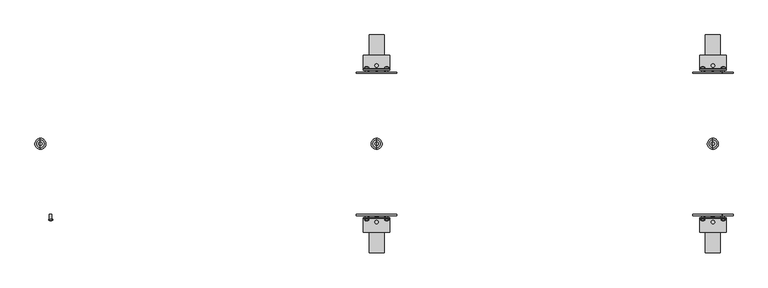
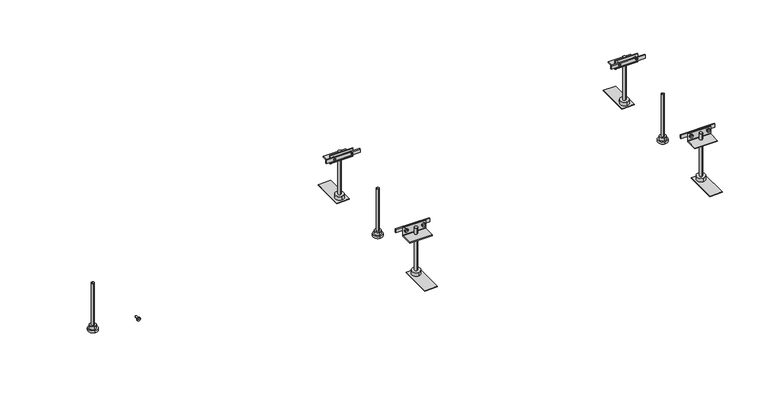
"""IFC4 building model written with IfcOpenShell, lengths in millimetres: proxy geometry."""

from ifc_helpers import new_model, si_unit, point, frame, frame_2d, origin, place, context, project, spatial, polyline, circle_curve, ellipse_curve, trimmed, segment, composite_curve, outline, extrude, source, transform, mapped, element, save
from ifc_brep_helpers import plane_surface, cylinder_surface, revolved_surface, advanced_brep


def electrical_fixtures_a5200488(model_context):
    return source(origin(), model_context, "Body", "SolidModel", [
        advanced_brep(
        [(1600.0, 13.0, -129.7), (1600.0, -13.0, -129.7), (1600.0, 0.0, -129.7), (1600.0, 13.0, -123.7), (1600.0, -13.0, -123.7), (1600.0, 9.0, -123.7), (1600.0, -9.0, -123.7), (1600.0, 9.0, -114.7), (1600.0, -9.0, -114.7), (1600.0, 3.954744, -114.7), (1600.0, -3.954744, -114.7), (1600.0, 3.954744, 10.3), (1600.0, -3.954744, 10.3), (1600.0, 0.0, 10.3)],
        [
            (0, 1, circle_curve(frame((1600.0, 0.0, -129.7), z_axis=(0.0, 0.0, -1.0), x_axis=(0.0, -1.0, 0.0)), 13.0)),
            (1, 2),
            (2, 0),
            (1, 0, circle_curve(frame((1600.0, 0.0, -129.7), z_axis=(0.0, 0.0, -1.0), x_axis=(0.0, -1.0, 0.0)), 13.0)),
            (3, 4, circle_curve(frame((1600.0, 0.0, -123.7), z_axis=(0.0, 0.0, -1.0), x_axis=(0.0, -1.0, 0.0)), 13.0)),
            (4, 1),
            (0, 3),
            (4, 3, circle_curve(frame((1600.0, 0.0, -123.7), z_axis=(0.0, 0.0, -1.0), x_axis=(0.0, -1.0, 0.0)), 13.0)),
            (5, 6, circle_curve(frame((1600.0, 0.0, -123.7), z_axis=(0.0, 0.0, -1.0), x_axis=(0.0, -1.0, 0.0)), 9.0)),
            (6, 4),
            (3, 5),
            (6, 5, circle_curve(frame((1600.0, 0.0, -123.7), z_axis=(0.0, 0.0, -1.0), x_axis=(0.0, -1.0, 0.0)), 9.0)),
            (7, 8, circle_curve(frame((1600.0, 0.0, -114.7), z_axis=(0.0, 0.0, -1.0), x_axis=(0.0, -1.0, 0.0)), 9.0)),
            (8, 6),
            (5, 7),
            (8, 7, circle_curve(frame((1600.0, 0.0, -114.7), z_axis=(0.0, 0.0, -1.0), x_axis=(0.0, -1.0, 0.0)), 9.0)),
            (9, 10, circle_curve(frame((1600.0, 0.0, -114.7), z_axis=(0.0, 0.0, -1.0), x_axis=(0.0, -1.0, 0.0)), 3.954744)),
            (10, 8),
            (7, 9),
            (10, 9, circle_curve(frame((1600.0, 0.0, -114.7), z_axis=(0.0, 0.0, -1.0), x_axis=(0.0, -1.0, 0.0)), 3.954744)),
            (11, 12, circle_curve(frame((1600.0, 0.0, 10.3), z_axis=(0.0, 0.0, -1.0), x_axis=(0.0, -1.0, 0.0)), 3.954744)),
            (12, 10),
            (9, 11),
            (12, 11, circle_curve(frame((1600.0, 0.0, 10.3), z_axis=(0.0, 0.0, -1.0), x_axis=(0.0, -1.0, 0.0)), 3.954744)),
            (13, 12),
            (11, 13),
        ],
        [
            plane_surface(frame((1600.0, 0.0, -129.7), z_axis=(0.0, 0.0, -1.0), x_axis=(0.0, -1.0, 0.0))),
            cylinder_surface(frame((1600.0, 0.0, 7.8), z_axis=(0.0, 0.0, 1.0), x_axis=(0.0, -1.0, 0.0)), 13.0),
            plane_surface(frame((1600.0, 0.0, -123.7), z_axis=(0.0, 0.0, 1.0), x_axis=(0.0, -1.0, 0.0))),
            cylinder_surface(frame((1600.0, 0.0, 7.8), z_axis=(0.0, 0.0, 1.0), x_axis=(0.0, -1.0, 0.0)), 9.0),
            plane_surface(frame((1600.0, 0.0, -114.7), z_axis=(0.0, 0.0, 1.0), x_axis=(0.0, -1.0, 0.0))),
            cylinder_surface(frame((1600.0, 0.0, 7.8), z_axis=(0.0, 0.0, 1.0), x_axis=(0.0, -1.0, 0.0)), 3.954744),
            plane_surface(frame((1600.0, 0.0, 10.3), z_axis=(0.0, 0.0, 1.0), x_axis=(0.0, -1.0, 0.0))),
        ],
        [
            (0, [[1, 2, 3]]),
            (0, [[4, -3, -2]]),
            (1, [[5, 6, -1, 7]]),
            (1, [[8, -7, -4, -6]]),
            (2, [[9, 10, -5, 11]]),
            (2, [[12, -11, -8, -10]]),
            (3, [[13, 14, -9, 15]]),
            (3, [[16, -15, -12, -14]]),
            (4, [[17, 18, -13, 19]]),
            (4, [[20, -19, -16, -18]]),
            (5, [[21, 22, -17, 23]]),
            (5, [[24, -23, -20, -22]]),
            (6, [[25, -21, 26]]),
            (6, [[-26, -24, -25]]),
        ],
    ),
        advanced_brep(
        [(1629.0575247, -181.6418922, 3.3), (1619.4769168, -181.6418922, 3.3), (1619.4769168, -179.7, 3.3), (1629.0575247, -179.7, 3.3), (1621.7042517, -179.7, 3.3), (1626.8301898, -179.7, 3.3), (1621.7042517, -167.7, 3.3), (1626.8301898, -167.7, 3.3), (1624.2672208, -167.7, 3.3), (1624.2672208, -183.3479209, 3.3)],
        [
            (0, 1, circle_curve(frame((1624.2672208, -181.6418922, 3.3), z_axis=(0.0, 1.0, 0.0), x_axis=(-1.0, 0.0, 0.0)), 4.790304)),
            (1, 2),
            (2, 3, circle_curve(frame((1624.2672208, -179.7, 3.3), z_axis=(0.0, -1.0, 0.0), x_axis=(-1.0, 0.0, 0.0)), 4.790304)),
            (3, 0),
            (1, 0, circle_curve(frame((1624.2672208, -181.6418922, 3.3), z_axis=(0.0, 1.0, 0.0), x_axis=(-1.0, 0.0, 0.0)), 4.790304)),
            (3, 2, circle_curve(frame((1624.2672208, -179.7, 3.3), z_axis=(0.0, -1.0, 0.0), x_axis=(-1.0, 0.0, 0.0)), 4.790304)),
            (2, 4),
            (4, 5, circle_curve(frame((1624.2672208, -179.7, 3.3), z_axis=(0.0, -1.0, 0.0), x_axis=(-1.0, 0.0, 0.0)), 2.562969)),
            (5, 3),
            (5, 4, circle_curve(frame((1624.2672208, -179.7, 3.3), z_axis=(0.0, -1.0, 0.0), x_axis=(-1.0, 0.0, 0.0)), 2.562969)),
            (4, 6),
            (6, 7, circle_curve(frame((1624.2672208, -167.7, 3.3), z_axis=(0.0, -1.0, 0.0), x_axis=(-1.0, 0.0, 0.0)), 2.562969)),
            (7, 5),
            (7, 6, circle_curve(frame((1624.2672208, -167.7, 3.3), z_axis=(0.0, -1.0, 0.0), x_axis=(-1.0, 0.0, 0.0)), 2.562969)),
            (6, 8),
            (8, 7),
            (9, 1, circle_curve(frame((1624.2353142, -175.8592246, 3.3), z_axis=(0.0, 0.0, -1.0), x_axis=(-1.0, 0.0, 0.0)), 7.4887643)),
            (0, 9, circle_curve(frame((1624.2991274, -175.8592246, 3.3), z_axis=(0.0, 0.0, -1.0), x_axis=(1.0, 0.0, 0.0)), 7.4887643)),
        ],
        [
            cylinder_surface(frame((1624.2672208, -179.2950786, 3.3), z_axis=(0.0, -1.0, 0.0), x_axis=(-1.0, 0.0, 0.0)), 4.790304),
            plane_surface(frame((1624.2672208, -179.7, 3.3), z_axis=(0.0, 1.0, 0.0), x_axis=(-1.0, 0.0, 0.0))),
            cylinder_surface(frame((1624.2672208, -179.2950786, 3.3), z_axis=(0.0, -1.0, 0.0), x_axis=(-1.0, 0.0, 0.0)), 2.562969),
            plane_surface(frame((1624.2672208, -167.7, 3.3), z_axis=(0.0, 1.0, 0.0), x_axis=(-1.0, 0.0, 0.0))),
            revolved_surface(trimmed(ellipse_curve(frame((1624.2353142, -175.8592246, 3.3), z_axis=(0.0, 0.0, 1.0), x_axis=(-1.0, 0.0, 0.0)), 7.4887643, 7.4887643), [point((1619.4769168, -181.6418922, 3.3))], [point((1624.2672208, -183.3479209, 3.3))], True, "CARTESIAN"), (1624.2672208, -179.2950786, 3.3), (0.0, -1.0, 0.0)),
        ],
        [
            (0, [[1, 2, 3, 4]]),
            (0, [[5, -4, 6, -2]]),
            (1, [[-3, 7, 8, 9]]),
            (1, [[-6, -9, 10, -7]]),
            (2, [[-8, 11, 12, 13]]),
            (2, [[-10, -13, 14, -11]]),
            (3, [[-12, 15, 16]]),
            (3, [[-14, -16, -15]]),
            (4, [[17, -1, 18]]),
            (4, [[-18, -5, -17]]),
        ],
    ),
        advanced_brep(
        [(1580.790304, -181.6418922, 3.3), (1571.209696, -181.6418922, 3.3), (1571.209696, -179.7, 3.3), (1580.790304, -179.7, 3.3), (1573.437031, -179.7, 3.3), (1578.562969, -179.7, 3.3), (1573.437031, -167.7, 3.3), (1578.562969, -167.7, 3.3), (1576.0, -167.7, 3.3), (1576.0, -183.3479209, 3.3)],
        [
            (0, 1, circle_curve(frame((1576.0, -181.6418922, 3.3), z_axis=(0.0, 1.0, 0.0), x_axis=(-1.0, 0.0, 0.0)), 4.790304)),
            (1, 2),
            (2, 3, circle_curve(frame((1576.0, -179.7, 3.3), z_axis=(0.0, -1.0, 0.0), x_axis=(-1.0, 0.0, 0.0)), 4.790304)),
            (3, 0),
            (1, 0, circle_curve(frame((1576.0, -181.6418922, 3.3), z_axis=(0.0, 1.0, 0.0), x_axis=(-1.0, 0.0, 0.0)), 4.790304)),
            (3, 2, circle_curve(frame((1576.0, -179.7, 3.3), z_axis=(0.0, -1.0, 0.0), x_axis=(-1.0, 0.0, 0.0)), 4.790304)),
            (2, 4),
            (4, 5, circle_curve(frame((1576.0, -179.7, 3.3), z_axis=(0.0, -1.0, 0.0), x_axis=(-1.0, 0.0, 0.0)), 2.562969)),
            (5, 3),
            (5, 4, circle_curve(frame((1576.0, -179.7, 3.3), z_axis=(0.0, -1.0, 0.0), x_axis=(-1.0, 0.0, 0.0)), 2.562969)),
            (4, 6),
            (6, 7, circle_curve(frame((1576.0, -167.7, 3.3), z_axis=(0.0, -1.0, 0.0), x_axis=(-1.0, 0.0, 0.0)), 2.562969)),
            (7, 5),
            (7, 6, circle_curve(frame((1576.0, -167.7, 3.3), z_axis=(0.0, -1.0, 0.0), x_axis=(-1.0, 0.0, 0.0)), 2.562969)),
            (6, 8),
            (8, 7),
            (9, 1, circle_curve(frame((1575.9680934, -175.8592246, 3.3), z_axis=(0.0, 0.0, -1.0), x_axis=(-1.0, 0.0, 0.0)), 7.4887643)),
            (0, 9, circle_curve(frame((1576.0319066, -175.8592246, 3.3), z_axis=(0.0, 0.0, -1.0), x_axis=(1.0, 0.0, 0.0)), 7.4887643)),
        ],
        [
            cylinder_surface(frame((1576.0, -179.2950786, 3.3), z_axis=(0.0, -1.0, 0.0), x_axis=(-1.0, 0.0, 0.0)), 4.790304),
            plane_surface(frame((1576.0, -179.7, 3.3), z_axis=(0.0, 1.0, 0.0), x_axis=(-1.0, 0.0, 0.0))),
            cylinder_surface(frame((1576.0, -179.2950786, 3.3), z_axis=(0.0, -1.0, 0.0), x_axis=(-1.0, 0.0, 0.0)), 2.562969),
            plane_surface(frame((1576.0, -167.7, 3.3), z_axis=(0.0, 1.0, 0.0), x_axis=(-1.0, 0.0, 0.0))),
            revolved_surface(trimmed(ellipse_curve(frame((1575.9680934, -175.8592246, 3.3), z_axis=(0.0, 0.0, 1.0), x_axis=(-1.0, 0.0, 0.0)), 7.4887643, 7.4887643), [point((1571.209696, -181.6418922, 3.3))], [point((1576.0, -183.3479209, 3.3))], True, "CARTESIAN"), (1576.0, -179.2950786, 3.3), (0.0, -1.0, 0.0)),
        ],
        [
            (0, [[1, 2, 3, 4]]),
            (0, [[5, -4, 6, -2]]),
            (1, [[-3, 7, 8, 9]]),
            (1, [[-6, -9, 10, -7]]),
            (2, [[-8, 11, 12, 13]]),
            (2, [[-10, -13, 14, -11]]),
            (3, [[-12, 15, 16]]),
            (3, [[-14, -16, -15]]),
            (4, [[17, -1, 18]]),
            (4, [[-18, -5, -17]]),
        ],
    ),
        advanced_brep(
        [(1629.0575247, 179.7, 3.3), (1619.4769168, 179.7, 3.3), (1619.4769168, 181.6418922, 3.3), (1629.0575247, 181.6418922, 3.3), (1626.8301898, 179.7, 3.3), (1621.7042517, 179.7, 3.3), (1626.8301898, 167.7, 3.3), (1621.7042517, 167.7, 3.3), (1624.2672208, 167.7, 3.3), (1624.2672208, 183.3479209, 3.3)],
        [
            (0, 1, circle_curve(frame((1624.2672208, 179.7, 3.3), z_axis=(0.0, 1.0, 0.0), x_axis=(-1.0, 0.0, 0.0)), 4.790304)),
            (1, 2),
            (2, 3, circle_curve(frame((1624.2672208, 181.6418922, 3.3), z_axis=(0.0, -1.0, 0.0), x_axis=(-1.0, 0.0, 0.0)), 4.790304)),
            (3, 0),
            (1, 0, circle_curve(frame((1624.2672208, 179.7, 3.3), z_axis=(0.0, 1.0, 0.0), x_axis=(-1.0, 0.0, 0.0)), 4.790304)),
            (3, 2, circle_curve(frame((1624.2672208, 181.6418922, 3.3), z_axis=(0.0, -1.0, 0.0), x_axis=(-1.0, 0.0, 0.0)), 4.790304)),
            (4, 5, circle_curve(frame((1624.2672208, 179.7, 3.3), z_axis=(0.0, 1.0, 0.0), x_axis=(-1.0, 0.0, 0.0)), 2.562969)),
            (5, 1),
            (0, 4),
            (5, 4, circle_curve(frame((1624.2672208, 179.7, 3.3), z_axis=(0.0, 1.0, 0.0), x_axis=(-1.0, 0.0, 0.0)), 2.562969)),
            (6, 7, circle_curve(frame((1624.2672208, 167.7, 3.3), z_axis=(0.0, 1.0, 0.0), x_axis=(-1.0, 0.0, 0.0)), 2.562969)),
            (7, 5),
            (4, 6),
            (7, 6, circle_curve(frame((1624.2672208, 167.7, 3.3), z_axis=(0.0, 1.0, 0.0), x_axis=(-1.0, 0.0, 0.0)), 2.562969)),
            (8, 7),
            (6, 8),
            (2, 9, circle_curve(frame((1624.2353142, 175.8592246, 3.3), z_axis=(0.0, 0.0, -1.0), x_axis=(-1.0, 0.0, 0.0)), 7.4887643)),
            (9, 3, circle_curve(frame((1624.2991274, 175.8592246, 3.3), z_axis=(0.0, 0.0, -1.0), x_axis=(1.0, 0.0, 0.0)), 7.4887643)),
        ],
        [
            cylinder_surface(frame((1624.2672208, 179.2950786, 3.3), z_axis=(0.0, -1.0, 0.0), x_axis=(-1.0, 0.0, 0.0)), 4.790304),
            plane_surface(frame((1624.2672208, 179.7, 3.3), z_axis=(0.0, -1.0, 0.0), x_axis=(-1.0, 0.0, 0.0))),
            cylinder_surface(frame((1624.2672208, 179.2950786, 3.3), z_axis=(0.0, -1.0, 0.0), x_axis=(-1.0, 0.0, 0.0)), 2.562969),
            plane_surface(frame((1624.2672208, 167.7, 3.3), z_axis=(0.0, -1.0, 0.0), x_axis=(-1.0, 0.0, 0.0))),
            revolved_surface(trimmed(ellipse_curve(frame((1624.2353142, 175.8592246, 3.3), z_axis=(0.0, 0.0, 1.0), x_axis=(-1.0, 0.0, 0.0)), 7.4887643, 7.4887643), [point((1624.2672208, 183.3479209, 3.3))], [point((1619.4769168, 181.6418922, 3.3))], True, "CARTESIAN"), (1624.2672208, 179.2950786, 3.3), (0.0, -1.0, 0.0)),
        ],
        [
            (0, [[1, 2, 3, 4]]),
            (0, [[5, -4, 6, -2]]),
            (1, [[7, 8, -1, 9]]),
            (1, [[10, -9, -5, -8]]),
            (2, [[11, 12, -7, 13]]),
            (2, [[14, -13, -10, -12]]),
            (3, [[15, -11, 16]]),
            (3, [[-16, -14, -15]]),
            (4, [[-3, 17, 18]]),
            (4, [[-6, -18, -17]]),
        ],
    ),
        advanced_brep(
        [(1580.790304, 179.7, 3.3), (1571.209696, 179.7, 3.3), (1571.209696, 181.6418922, 3.3), (1580.790304, 181.6418922, 3.3), (1578.562969, 179.7, 3.3), (1573.437031, 179.7, 3.3), (1578.562969, 167.7, 3.3), (1573.437031, 167.7, 3.3), (1576.0, 167.7, 3.3), (1576.0, 183.3479209, 3.3)],
        [
            (0, 1, circle_curve(frame((1576.0, 179.7, 3.3), z_axis=(0.0, 1.0, 0.0), x_axis=(-1.0, 0.0, 0.0)), 4.790304)),
            (1, 2),
            (2, 3, circle_curve(frame((1576.0, 181.6418922, 3.3), z_axis=(0.0, -1.0, 0.0), x_axis=(-1.0, 0.0, 0.0)), 4.790304)),
            (3, 0),
            (1, 0, circle_curve(frame((1576.0, 179.7, 3.3), z_axis=(0.0, 1.0, 0.0), x_axis=(-1.0, 0.0, 0.0)), 4.790304)),
            (3, 2, circle_curve(frame((1576.0, 181.6418922, 3.3), z_axis=(0.0, -1.0, 0.0), x_axis=(-1.0, 0.0, 0.0)), 4.790304)),
            (4, 5, circle_curve(frame((1576.0, 179.7, 3.3), z_axis=(0.0, 1.0, 0.0), x_axis=(-1.0, 0.0, 0.0)), 2.562969)),
            (5, 1),
            (0, 4),
            (5, 4, circle_curve(frame((1576.0, 179.7, 3.3), z_axis=(0.0, 1.0, 0.0), x_axis=(-1.0, 0.0, 0.0)), 2.562969)),
            (6, 7, circle_curve(frame((1576.0, 167.7, 3.3), z_axis=(0.0, 1.0, 0.0), x_axis=(-1.0, 0.0, 0.0)), 2.562969)),
            (7, 5),
            (4, 6),
            (7, 6, circle_curve(frame((1576.0, 167.7, 3.3), z_axis=(0.0, 1.0, 0.0), x_axis=(-1.0, 0.0, 0.0)), 2.562969)),
            (8, 7),
            (6, 8),
            (2, 9, circle_curve(frame((1575.9680934, 175.8592246, 3.3), z_axis=(0.0, 0.0, -1.0), x_axis=(-1.0, 0.0, 0.0)), 7.4887643)),
            (9, 3, circle_curve(frame((1576.0319066, 175.8592246, 3.3), z_axis=(0.0, 0.0, -1.0), x_axis=(1.0, 0.0, 0.0)), 7.4887643)),
        ],
        [
            cylinder_surface(frame((1576.0, 179.2950786, 3.3), z_axis=(0.0, -1.0, 0.0), x_axis=(-1.0, 0.0, 0.0)), 4.790304),
            plane_surface(frame((1576.0, 179.7, 3.3), z_axis=(0.0, -1.0, 0.0), x_axis=(-1.0, 0.0, 0.0))),
            cylinder_surface(frame((1576.0, 179.2950786, 3.3), z_axis=(0.0, -1.0, 0.0), x_axis=(-1.0, 0.0, 0.0)), 2.562969),
            plane_surface(frame((1576.0, 167.7, 3.3), z_axis=(0.0, -1.0, 0.0), x_axis=(-1.0, 0.0, 0.0))),
            revolved_surface(trimmed(ellipse_curve(frame((1575.9680934, 175.8592246, 3.3), z_axis=(0.0, 0.0, 1.0), x_axis=(-1.0, 0.0, 0.0)), 7.4887643, 7.4887643), [point((1576.0, 183.3479209, 3.3))], [point((1571.209696, 181.6418922, 3.3))], True, "CARTESIAN"), (1576.0, 179.2950786, 3.3), (0.0, -1.0, 0.0)),
        ],
        [
            (0, [[1, 2, 3, 4]]),
            (0, [[5, -4, 6, -2]]),
            (1, [[7, 8, -1, 9]]),
            (1, [[10, -9, -5, -8]]),
            (2, [[11, 12, -7, 13]]),
            (2, [[14, -13, -10, -12]]),
            (3, [[15, -11, 16]]),
            (3, [[-16, -14, -15]]),
            (4, [[-3, 17, 18]]),
            (4, [[-6, -18, -17]]),
        ],
    ),
        extrude(outline(polyline([(1552.0, 167.7), (1552.0, 170.7), (1648.0, 170.7), (1648.0, 167.7), (1552.0, 167.7)])), frame((0.0, 0.0, -1.7), z_axis=(0.0, 0.0, 1.0), x_axis=(1.0, 0.0, 0.0)), (0.0, 0.0, 1.0), 10.0),
        extrude(outline(polyline([(1552.0, -170.7), (1552.0, -167.7), (1648.0, -167.7), (1648.0, -170.7), (1552.0, -170.7)])), frame((0.0, 0.0, -1.7), z_axis=(0.0, 0.0, 1.0), x_axis=(1.0, 0.0, 0.0)), (0.0, 0.0, 1.0), 10.0),
        extrude(outline(composite_curve([segment(polyline([(175.6, 11.7), (177.6, 11.7), (177.6, -10.3088822)]), True, "CONTINUOUS"), segment(trimmed(circle_curve(frame_2d((178.5911178, -10.3088822)), 0.9911178), [point((177.6, -10.3088822))], [point((178.5911178, -11.3))], True, "CARTESIAN"), True, "CONTINUOUS"), segment(polyline([(178.5911178, -11.3), (210.6, -11.3), (210.6, -13.3), (178.6002521, -13.3)]), True, "CONTINUOUS"), segment(trimmed(circle_curve(frame_2d((178.6002521, -10.2997479)), 3.0002521), [point((178.6002521, -13.3))], [point((175.6, -10.2997479))], False, "CARTESIAN"), True, "CONTINUOUS"), segment(polyline([(175.6, -10.2997479), (175.6, 11.7)]), True, "CONTINUOUS")], self_intersect=False)), frame((1568.3, 0.0, 0.0), z_axis=(1.0, 0.0, 0.0), x_axis=(0.0, 1.0, 0.0)), (0.0, 0.0, 1.0), 63.4),
        extrude(outline(composite_curve([segment(polyline([(-175.6, 11.7), (-175.6, -10.2997479)]), True, "CONTINUOUS"), segment(trimmed(circle_curve(frame_2d((-178.6002521, -10.2997479)), 3.0002521), [point((-175.6, -10.2997479))], [point((-178.6002521, -13.3))], False, "CARTESIAN"), True, "CONTINUOUS"), segment(polyline([(-178.6002521, -13.3), (-210.6, -13.3), (-210.6, -11.3), (-178.5911178, -11.3)]), True, "CONTINUOUS"), segment(trimmed(circle_curve(frame_2d((-178.5911178, -10.3088822)), 0.9911178), [point((-178.5911178, -11.3))], [point((-177.6, -10.3088822))], True, "CARTESIAN"), True, "CONTINUOUS"), segment(polyline([(-177.6, -10.3088822), (-177.6, 11.7), (-175.6, 11.7)]), True, "CONTINUOUS")], self_intersect=False)), frame((1568.3, 0.0, 0.0), z_axis=(1.0, 0.0, 0.0), x_axis=(0.0, 1.0, 0.0)), (0.0, 0.0, 1.0), 63.4),
        extrude(outline(composite_curve([segment(trimmed(circle_curve(frame_2d((1600.0, 186.1712378)), 3.9923162), [point((1600.0, 190.163554))], [point((1600.0, 182.1789216))], False, "CARTESIAN"), True, "CONTINUOUS"), segment(trimmed(circle_curve(frame_2d((1600.0, 186.1712378)), 3.9923162), [point((1600.0, 182.1789216))], [point((1600.0, 190.163554))], False, "CARTESIAN"), True, "CONTINUOUS")], self_intersect=False)), frame((0.0, 0.0, -119.0), z_axis=(0.0, 0.0, 1.0), x_axis=(1.0, 0.0, 0.0)), (0.0, 0.0, 1.0), 126.8),
        extrude(outline(composite_curve([segment(trimmed(circle_curve(frame_2d((1600.0, -186.0787011)), 3.991847), [point((1600.0, -182.0868541))], [point((1600.0, -190.0705482))], False, "CARTESIAN"), True, "CONTINUOUS"), segment(trimmed(circle_curve(frame_2d((1600.0, -186.0787011)), 3.991847), [point((1600.0, -190.0705482))], [point((1600.0, -182.0868541))], False, "CARTESIAN"), True, "CONTINUOUS")], self_intersect=False)), frame((0.0, 0.0, -119.0), z_axis=(0.0, 0.0, 1.0), x_axis=(1.0, 0.0, 0.0)), (0.0, 0.0, 1.0), 126.8),
        extrude(outline(composite_curve([segment(trimmed(circle_curve(frame_2d((1600.0, 186.1652527)), 12.0), [point((1600.0, 198.1652527))], [point((1600.0, 174.1652527))], False, "CARTESIAN"), True, "CONTINUOUS"), segment(trimmed(circle_curve(frame_2d((1600.0, 186.1652527)), 12.0), [point((1600.0, 174.1652527))], [point((1600.0, 198.1652527))], False, "CARTESIAN"), True, "CONTINUOUS")], self_intersect=False)), frame((0.0, 0.0, -129.7), z_axis=(0.0, 0.0, 1.0), x_axis=(1.0, 0.0, 0.0)), (0.0, 0.0, 1.0), 10.7),
        extrude(outline(composite_curve([segment(trimmed(circle_curve(frame_2d((1600.0, -186.112037)), 12.0), [point((1600.0, -174.112037))], [point((1600.0, -198.112037))], False, "CARTESIAN"), True, "CONTINUOUS"), segment(trimmed(circle_curve(frame_2d((1600.0, -186.112037)), 12.0), [point((1600.0, -198.112037))], [point((1600.0, -174.112037))], False, "CARTESIAN"), True, "CONTINUOUS")], self_intersect=False)), frame((0.0, 0.0, -129.7), z_axis=(0.0, 0.0, 1.0), x_axis=(1.0, 0.0, 0.0)), (0.0, 0.0, 1.0), 10.7),
        extrude(outline(polyline([(1618.0, 169.1), (1582.0, 169.1), (1582.0, 259.1), (1618.0, 259.1), (1618.0, 169.1)])), frame((0.0, 0.0, -131.2), z_axis=(0.0, 0.0, 1.0), x_axis=(1.0, 0.0, 0.0)), (0.0, 0.0, 1.0), 1.5),
        extrude(outline(polyline([(1618.0, -259.1), (1582.0, -259.1), (1582.0, -169.1), (1618.0, -169.1), (1618.0, -259.1)])), frame((0.0, 0.0, -131.2), z_axis=(0.0, 0.0, 1.0), x_axis=(1.0, 0.0, 0.0)), (0.0, 0.0, 1.0), 1.5),
        advanced_brep(
        [(800.0, 13.0, -129.7), (800.0, -13.0, -129.7), (800.0, 0.0, -129.7), (800.0, 13.0, -123.7), (800.0, -13.0, -123.7), (800.0, 9.0, -123.7), (800.0, -9.0, -123.7), (800.0, 9.0, -114.7), (800.0, -9.0, -114.7), (800.0, 3.954744, -114.7), (800.0, -3.954744, -114.7), (800.0, 3.954744, 10.3), (800.0, -3.954744, 10.3), (800.0, 0.0, 10.3)],
        [
            (0, 1, circle_curve(frame((800.0, 0.0, -129.7), z_axis=(0.0, 0.0, -1.0), x_axis=(0.0, -1.0, 0.0)), 13.0)),
            (1, 2),
            (2, 0),
            (1, 0, circle_curve(frame((800.0, 0.0, -129.7), z_axis=(0.0, 0.0, -1.0), x_axis=(0.0, -1.0, 0.0)), 13.0)),
            (3, 4, circle_curve(frame((800.0, 0.0, -123.7), z_axis=(0.0, 0.0, -1.0), x_axis=(0.0, -1.0, 0.0)), 13.0)),
            (4, 1),
            (0, 3),
            (4, 3, circle_curve(frame((800.0, 0.0, -123.7), z_axis=(0.0, 0.0, -1.0), x_axis=(0.0, -1.0, 0.0)), 13.0)),
            (5, 6, circle_curve(frame((800.0, 0.0, -123.7), z_axis=(0.0, 0.0, -1.0), x_axis=(0.0, -1.0, 0.0)), 9.0)),
            (6, 4),
            (3, 5),
            (6, 5, circle_curve(frame((800.0, 0.0, -123.7), z_axis=(0.0, 0.0, -1.0), x_axis=(0.0, -1.0, 0.0)), 9.0)),
            (7, 8, circle_curve(frame((800.0, 0.0, -114.7), z_axis=(0.0, 0.0, -1.0), x_axis=(0.0, -1.0, 0.0)), 9.0)),
            (8, 6),
            (5, 7),
            (8, 7, circle_curve(frame((800.0, 0.0, -114.7), z_axis=(0.0, 0.0, -1.0), x_axis=(0.0, -1.0, 0.0)), 9.0)),
            (9, 10, circle_curve(frame((800.0, 0.0, -114.7), z_axis=(0.0, 0.0, -1.0), x_axis=(0.0, -1.0, 0.0)), 3.954744)),
            (10, 8),
            (7, 9),
            (10, 9, circle_curve(frame((800.0, 0.0, -114.7), z_axis=(0.0, 0.0, -1.0), x_axis=(0.0, -1.0, 0.0)), 3.954744)),
            (11, 12, circle_curve(frame((800.0, 0.0, 10.3), z_axis=(0.0, 0.0, -1.0), x_axis=(0.0, -1.0, 0.0)), 3.954744)),
            (12, 10),
            (9, 11),
            (12, 11, circle_curve(frame((800.0, 0.0, 10.3), z_axis=(0.0, 0.0, -1.0), x_axis=(0.0, -1.0, 0.0)), 3.954744)),
            (13, 12),
            (11, 13),
        ],
        [
            plane_surface(frame((800.0, 0.0, -129.7), z_axis=(0.0, 0.0, -1.0), x_axis=(0.0, -1.0, 0.0))),
            cylinder_surface(frame((800.0, 0.0, 7.8), z_axis=(0.0, 0.0, 1.0), x_axis=(0.0, -1.0, 0.0)), 13.0),
            plane_surface(frame((800.0, 0.0, -123.7), z_axis=(0.0, 0.0, 1.0), x_axis=(0.0, -1.0, 0.0))),
            cylinder_surface(frame((800.0, 0.0, 7.8), z_axis=(0.0, 0.0, 1.0), x_axis=(0.0, -1.0, 0.0)), 9.0),
            plane_surface(frame((800.0, 0.0, -114.7), z_axis=(0.0, 0.0, 1.0), x_axis=(0.0, -1.0, 0.0))),
            cylinder_surface(frame((800.0, 0.0, 7.8), z_axis=(0.0, 0.0, 1.0), x_axis=(0.0, -1.0, 0.0)), 3.954744),
            plane_surface(frame((800.0, 0.0, 10.3), z_axis=(0.0, 0.0, 1.0), x_axis=(0.0, -1.0, 0.0))),
        ],
        [
            (0, [[1, 2, 3]]),
            (0, [[4, -3, -2]]),
            (1, [[5, 6, -1, 7]]),
            (1, [[8, -7, -4, -6]]),
            (2, [[9, 10, -5, 11]]),
            (2, [[12, -11, -8, -10]]),
            (3, [[13, 14, -9, 15]]),
            (3, [[16, -15, -12, -14]]),
            (4, [[17, 18, -13, 19]]),
            (4, [[20, -19, -16, -18]]),
            (5, [[21, 22, -17, 23]]),
            (5, [[24, -23, -20, -22]]),
            (6, [[25, -21, 26]]),
            (6, [[-26, -24, -25]]),
        ],
    ),
        advanced_brep(
        [(829.0575247, -181.6418922, 3.3), (819.4769168, -181.6418922, 3.3), (819.4769168, -179.7, 3.3), (829.0575247, -179.7, 3.3), (821.7042517, -179.7, 3.3), (826.8301898, -179.7, 3.3), (821.7042517, -167.7, 3.3), (826.8301898, -167.7, 3.3), (824.2672208, -167.7, 3.3), (824.2672208, -183.3479209, 3.3)],
        [
            (0, 1, circle_curve(frame((824.2672208, -181.6418922, 3.3), z_axis=(0.0, 1.0, 0.0), x_axis=(-1.0, 0.0, 0.0)), 4.790304)),
            (1, 2),
            (2, 3, circle_curve(frame((824.2672208, -179.7, 3.3), z_axis=(0.0, -1.0, 0.0), x_axis=(-1.0, 0.0, 0.0)), 4.790304)),
            (3, 0),
            (1, 0, circle_curve(frame((824.2672208, -181.6418922, 3.3), z_axis=(0.0, 1.0, 0.0), x_axis=(-1.0, 0.0, 0.0)), 4.790304)),
            (3, 2, circle_curve(frame((824.2672208, -179.7, 3.3), z_axis=(0.0, -1.0, 0.0), x_axis=(-1.0, 0.0, 0.0)), 4.790304)),
            (2, 4),
            (4, 5, circle_curve(frame((824.2672208, -179.7, 3.3), z_axis=(0.0, -1.0, 0.0), x_axis=(-1.0, 0.0, 0.0)), 2.562969)),
            (5, 3),
            (5, 4, circle_curve(frame((824.2672208, -179.7, 3.3), z_axis=(0.0, -1.0, 0.0), x_axis=(-1.0, 0.0, 0.0)), 2.562969)),
            (4, 6),
            (6, 7, circle_curve(frame((824.2672208, -167.7, 3.3), z_axis=(0.0, -1.0, 0.0), x_axis=(-1.0, 0.0, 0.0)), 2.562969)),
            (7, 5),
            (7, 6, circle_curve(frame((824.2672208, -167.7, 3.3), z_axis=(0.0, -1.0, 0.0), x_axis=(-1.0, 0.0, 0.0)), 2.562969)),
            (6, 8),
            (8, 7),
            (9, 1, circle_curve(frame((824.2353142, -175.8592246, 3.3), z_axis=(0.0, 0.0, -1.0), x_axis=(-1.0, 0.0, 0.0)), 7.4887643)),
            (0, 9, circle_curve(frame((824.2991274, -175.8592246, 3.3), z_axis=(0.0, 0.0, -1.0), x_axis=(1.0, 0.0, 0.0)), 7.4887643)),
        ],
        [
            cylinder_surface(frame((824.2672208, -179.2950786, 3.3), z_axis=(0.0, -1.0, 0.0), x_axis=(-1.0, 0.0, 0.0)), 4.790304),
            plane_surface(frame((824.2672208, -179.7, 3.3), z_axis=(0.0, 1.0, 0.0), x_axis=(-1.0, 0.0, 0.0))),
            cylinder_surface(frame((824.2672208, -179.2950786, 3.3), z_axis=(0.0, -1.0, 0.0), x_axis=(-1.0, 0.0, 0.0)), 2.562969),
            plane_surface(frame((824.2672208, -167.7, 3.3), z_axis=(0.0, 1.0, 0.0), x_axis=(-1.0, 0.0, 0.0))),
            revolved_surface(trimmed(ellipse_curve(frame((824.2353142, -175.8592246, 3.3), z_axis=(0.0, 0.0, 1.0), x_axis=(-1.0, 0.0, 0.0)), 7.4887643, 7.4887643), [point((819.4769168, -181.6418922, 3.3))], [point((824.2672208, -183.3479209, 3.3))], True, "CARTESIAN"), (824.2672208, -179.2950786, 3.3), (0.0, -1.0, 0.0)),
        ],
        [
            (0, [[1, 2, 3, 4]]),
            (0, [[5, -4, 6, -2]]),
            (1, [[-3, 7, 8, 9]]),
            (1, [[-6, -9, 10, -7]]),
            (2, [[-8, 11, 12, 13]]),
            (2, [[-10, -13, 14, -11]]),
            (3, [[-12, 15, 16]]),
            (3, [[-14, -16, -15]]),
            (4, [[17, -1, 18]]),
            (4, [[-18, -5, -17]]),
        ],
    ),
        advanced_brep(
        [(780.790304, -181.6418922, 3.3), (771.209696, -181.6418922, 3.3), (771.209696, -179.7, 3.3), (780.790304, -179.7, 3.3), (773.437031, -179.7, 3.3), (778.562969, -179.7, 3.3), (773.437031, -167.7, 3.3), (778.562969, -167.7, 3.3), (776.0, -167.7, 3.3), (776.0, -183.3479209, 3.3)],
        [
            (0, 1, circle_curve(frame((776.0, -181.6418922, 3.3), z_axis=(0.0, 1.0, 0.0), x_axis=(-1.0, 0.0, 0.0)), 4.790304)),
            (1, 2),
            (2, 3, circle_curve(frame((776.0, -179.7, 3.3), z_axis=(0.0, -1.0, 0.0), x_axis=(-1.0, 0.0, 0.0)), 4.790304)),
            (3, 0),
            (1, 0, circle_curve(frame((776.0, -181.6418922, 3.3), z_axis=(0.0, 1.0, 0.0), x_axis=(-1.0, 0.0, 0.0)), 4.790304)),
            (3, 2, circle_curve(frame((776.0, -179.7, 3.3), z_axis=(0.0, -1.0, 0.0), x_axis=(-1.0, 0.0, 0.0)), 4.790304)),
            (2, 4),
            (4, 5, circle_curve(frame((776.0, -179.7, 3.3), z_axis=(0.0, -1.0, 0.0), x_axis=(-1.0, 0.0, 0.0)), 2.562969)),
            (5, 3),
            (5, 4, circle_curve(frame((776.0, -179.7, 3.3), z_axis=(0.0, -1.0, 0.0), x_axis=(-1.0, 0.0, 0.0)), 2.562969)),
            (4, 6),
            (6, 7, circle_curve(frame((776.0, -167.7, 3.3), z_axis=(0.0, -1.0, 0.0), x_axis=(-1.0, 0.0, 0.0)), 2.562969)),
            (7, 5),
            (7, 6, circle_curve(frame((776.0, -167.7, 3.3), z_axis=(0.0, -1.0, 0.0), x_axis=(-1.0, 0.0, 0.0)), 2.562969)),
            (6, 8),
            (8, 7),
            (9, 1, circle_curve(frame((775.9680934, -175.8592246, 3.3), z_axis=(0.0, 0.0, -1.0), x_axis=(-1.0, 0.0, 0.0)), 7.4887643)),
            (0, 9, circle_curve(frame((776.0319066, -175.8592246, 3.3), z_axis=(0.0, 0.0, -1.0), x_axis=(1.0, 0.0, 0.0)), 7.4887643)),
        ],
        [
            cylinder_surface(frame((776.0, -179.2950786, 3.3), z_axis=(0.0, -1.0, 0.0), x_axis=(-1.0, 0.0, 0.0)), 4.790304),
            plane_surface(frame((776.0, -179.7, 3.3), z_axis=(0.0, 1.0, 0.0), x_axis=(-1.0, 0.0, 0.0))),
            cylinder_surface(frame((776.0, -179.2950786, 3.3), z_axis=(0.0, -1.0, 0.0), x_axis=(-1.0, 0.0, 0.0)), 2.562969),
            plane_surface(frame((776.0, -167.7, 3.3), z_axis=(0.0, 1.0, 0.0), x_axis=(-1.0, 0.0, 0.0))),
            revolved_surface(trimmed(ellipse_curve(frame((775.9680934, -175.8592246, 3.3), z_axis=(0.0, 0.0, 1.0), x_axis=(-1.0, 0.0, 0.0)), 7.4887643, 7.4887643), [point((771.209696, -181.6418922, 3.3))], [point((776.0, -183.3479209, 3.3))], True, "CARTESIAN"), (776.0, -179.2950786, 3.3), (0.0, -1.0, 0.0)),
        ],
        [
            (0, [[1, 2, 3, 4]]),
            (0, [[5, -4, 6, -2]]),
            (1, [[-3, 7, 8, 9]]),
            (1, [[-6, -9, 10, -7]]),
            (2, [[-8, 11, 12, 13]]),
            (2, [[-10, -13, 14, -11]]),
            (3, [[-12, 15, 16]]),
            (3, [[-14, -16, -15]]),
            (4, [[17, -1, 18]]),
            (4, [[-18, -5, -17]]),
        ],
    ),
        advanced_brep(
        [(829.0575247, 179.7, 3.3), (819.4769168, 179.7, 3.3), (819.4769168, 181.6418922, 3.3), (829.0575247, 181.6418922, 3.3), (826.8301898, 179.7, 3.3), (821.7042517, 179.7, 3.3), (826.8301898, 167.7, 3.3), (821.7042517, 167.7, 3.3), (824.2672208, 167.7, 3.3), (824.2672208, 183.3479209, 3.3)],
        [
            (0, 1, circle_curve(frame((824.2672208, 179.7, 3.3), z_axis=(0.0, 1.0, 0.0), x_axis=(-1.0, 0.0, 0.0)), 4.790304)),
            (1, 2),
            (2, 3, circle_curve(frame((824.2672208, 181.6418922, 3.3), z_axis=(0.0, -1.0, 0.0), x_axis=(-1.0, 0.0, 0.0)), 4.790304)),
            (3, 0),
            (1, 0, circle_curve(frame((824.2672208, 179.7, 3.3), z_axis=(0.0, 1.0, 0.0), x_axis=(-1.0, 0.0, 0.0)), 4.790304)),
            (3, 2, circle_curve(frame((824.2672208, 181.6418922, 3.3), z_axis=(0.0, -1.0, 0.0), x_axis=(-1.0, 0.0, 0.0)), 4.790304)),
            (4, 5, circle_curve(frame((824.2672208, 179.7, 3.3), z_axis=(0.0, 1.0, 0.0), x_axis=(-1.0, 0.0, 0.0)), 2.562969)),
            (5, 1),
            (0, 4),
            (5, 4, circle_curve(frame((824.2672208, 179.7, 3.3), z_axis=(0.0, 1.0, 0.0), x_axis=(-1.0, 0.0, 0.0)), 2.562969)),
            (6, 7, circle_curve(frame((824.2672208, 167.7, 3.3), z_axis=(0.0, 1.0, 0.0), x_axis=(-1.0, 0.0, 0.0)), 2.562969)),
            (7, 5),
            (4, 6),
            (7, 6, circle_curve(frame((824.2672208, 167.7, 3.3), z_axis=(0.0, 1.0, 0.0), x_axis=(-1.0, 0.0, 0.0)), 2.562969)),
            (8, 7),
            (6, 8),
            (2, 9, circle_curve(frame((824.2353142, 175.8592246, 3.3), z_axis=(0.0, 0.0, -1.0), x_axis=(-1.0, 0.0, 0.0)), 7.4887643)),
            (9, 3, circle_curve(frame((824.2991274, 175.8592246, 3.3), z_axis=(0.0, 0.0, -1.0), x_axis=(1.0, 0.0, 0.0)), 7.4887643)),
        ],
        [
            cylinder_surface(frame((824.2672208, 179.2950786, 3.3), z_axis=(0.0, -1.0, 0.0), x_axis=(-1.0, 0.0, 0.0)), 4.790304),
            plane_surface(frame((824.2672208, 179.7, 3.3), z_axis=(0.0, -1.0, 0.0), x_axis=(-1.0, 0.0, 0.0))),
            cylinder_surface(frame((824.2672208, 179.2950786, 3.3), z_axis=(0.0, -1.0, 0.0), x_axis=(-1.0, 0.0, 0.0)), 2.562969),
            plane_surface(frame((824.2672208, 167.7, 3.3), z_axis=(0.0, -1.0, 0.0), x_axis=(-1.0, 0.0, 0.0))),
            revolved_surface(trimmed(ellipse_curve(frame((824.2353142, 175.8592246, 3.3), z_axis=(0.0, 0.0, 1.0), x_axis=(-1.0, 0.0, 0.0)), 7.4887643, 7.4887643), [point((824.2672208, 183.3479209, 3.3))], [point((819.4769168, 181.6418922, 3.3))], True, "CARTESIAN"), (824.2672208, 179.2950786, 3.3), (0.0, -1.0, 0.0)),
        ],
        [
            (0, [[1, 2, 3, 4]]),
            (0, [[5, -4, 6, -2]]),
            (1, [[7, 8, -1, 9]]),
            (1, [[10, -9, -5, -8]]),
            (2, [[11, 12, -7, 13]]),
            (2, [[14, -13, -10, -12]]),
            (3, [[15, -11, 16]]),
            (3, [[-16, -14, -15]]),
            (4, [[-3, 17, 18]]),
            (4, [[-6, -18, -17]]),
        ],
    ),
        advanced_brep(
        [(780.790304, 179.7, 3.3), (771.209696, 179.7, 3.3), (771.209696, 181.6418922, 3.3), (780.790304, 181.6418922, 3.3), (778.562969, 179.7, 3.3), (773.437031, 179.7, 3.3), (778.562969, 167.7, 3.3), (773.437031, 167.7, 3.3), (776.0, 167.7, 3.3), (776.0, 183.3479209, 3.3)],
        [
            (0, 1, circle_curve(frame((776.0, 179.7, 3.3), z_axis=(0.0, 1.0, 0.0), x_axis=(-1.0, 0.0, 0.0)), 4.790304)),
            (1, 2),
            (2, 3, circle_curve(frame((776.0, 181.6418922, 3.3), z_axis=(0.0, -1.0, 0.0), x_axis=(-1.0, 0.0, 0.0)), 4.790304)),
            (3, 0),
            (1, 0, circle_curve(frame((776.0, 179.7, 3.3), z_axis=(0.0, 1.0, 0.0), x_axis=(-1.0, 0.0, 0.0)), 4.790304)),
            (3, 2, circle_curve(frame((776.0, 181.6418922, 3.3), z_axis=(0.0, -1.0, 0.0), x_axis=(-1.0, 0.0, 0.0)), 4.790304)),
            (4, 5, circle_curve(frame((776.0, 179.7, 3.3), z_axis=(0.0, 1.0, 0.0), x_axis=(-1.0, 0.0, 0.0)), 2.562969)),
            (5, 1),
            (0, 4),
            (5, 4, circle_curve(frame((776.0, 179.7, 3.3), z_axis=(0.0, 1.0, 0.0), x_axis=(-1.0, 0.0, 0.0)), 2.562969)),
            (6, 7, circle_curve(frame((776.0, 167.7, 3.3), z_axis=(0.0, 1.0, 0.0), x_axis=(-1.0, 0.0, 0.0)), 2.562969)),
            (7, 5),
            (4, 6),
            (7, 6, circle_curve(frame((776.0, 167.7, 3.3), z_axis=(0.0, 1.0, 0.0), x_axis=(-1.0, 0.0, 0.0)), 2.562969)),
            (8, 7),
            (6, 8),
            (2, 9, circle_curve(frame((775.9680934, 175.8592246, 3.3), z_axis=(0.0, 0.0, -1.0), x_axis=(-1.0, 0.0, 0.0)), 7.4887643)),
            (9, 3, circle_curve(frame((776.0319066, 175.8592246, 3.3), z_axis=(0.0, 0.0, -1.0), x_axis=(1.0, 0.0, 0.0)), 7.4887643)),
        ],
        [
            cylinder_surface(frame((776.0, 179.2950786, 3.3), z_axis=(0.0, -1.0, 0.0), x_axis=(-1.0, 0.0, 0.0)), 4.790304),
            plane_surface(frame((776.0, 179.7, 3.3), z_axis=(0.0, -1.0, 0.0), x_axis=(-1.0, 0.0, 0.0))),
            cylinder_surface(frame((776.0, 179.2950786, 3.3), z_axis=(0.0, -1.0, 0.0), x_axis=(-1.0, 0.0, 0.0)), 2.562969),
            plane_surface(frame((776.0, 167.7, 3.3), z_axis=(0.0, -1.0, 0.0), x_axis=(-1.0, 0.0, 0.0))),
            revolved_surface(trimmed(ellipse_curve(frame((775.9680934, 175.8592246, 3.3), z_axis=(0.0, 0.0, 1.0), x_axis=(-1.0, 0.0, 0.0)), 7.4887643, 7.4887643), [point((776.0, 183.3479209, 3.3))], [point((771.209696, 181.6418922, 3.3))], True, "CARTESIAN"), (776.0, 179.2950786, 3.3), (0.0, -1.0, 0.0)),
        ],
        [
            (0, [[1, 2, 3, 4]]),
            (0, [[5, -4, 6, -2]]),
            (1, [[7, 8, -1, 9]]),
            (1, [[10, -9, -5, -8]]),
            (2, [[11, 12, -7, 13]]),
            (2, [[14, -13, -10, -12]]),
            (3, [[15, -11, 16]]),
            (3, [[-16, -14, -15]]),
            (4, [[-3, 17, 18]]),
            (4, [[-6, -18, -17]]),
        ],
    ),
        extrude(outline(polyline([(752.0, 167.7), (752.0, 170.7), (848.0, 170.7), (848.0, 167.7), (752.0, 167.7)])), frame((0.0, 0.0, -1.7), z_axis=(0.0, 0.0, 1.0), x_axis=(1.0, 0.0, 0.0)), (0.0, 0.0, 1.0), 10.0),
        extrude(outline(polyline([(752.0, -170.7), (752.0, -167.7), (848.0, -167.7), (848.0, -170.7), (752.0, -170.7)])), frame((0.0, 0.0, -1.7), z_axis=(0.0, 0.0, 1.0), x_axis=(1.0, 0.0, 0.0)), (0.0, 0.0, 1.0), 10.0),
        extrude(outline(composite_curve([segment(polyline([(175.6, 11.7), (177.6, 11.7), (177.6, -10.3088822)]), True, "CONTINUOUS"), segment(trimmed(circle_curve(frame_2d((178.5911178, -10.3088822)), 0.9911178), [point((177.6, -10.3088822))], [point((178.5911178, -11.3))], True, "CARTESIAN"), True, "CONTINUOUS"), segment(polyline([(178.5911178, -11.3), (210.6, -11.3), (210.6, -13.3), (178.6002521, -13.3)]), True, "CONTINUOUS"), segment(trimmed(circle_curve(frame_2d((178.6002521, -10.2997479)), 3.0002521), [point((178.6002521, -13.3))], [point((175.6, -10.2997479))], False, "CARTESIAN"), True, "CONTINUOUS"), segment(polyline([(175.6, -10.2997479), (175.6, 11.7)]), True, "CONTINUOUS")], self_intersect=False)), frame((768.3, 0.0, 0.0), z_axis=(1.0, 0.0, 0.0), x_axis=(0.0, 1.0, 0.0)), (0.0, 0.0, 1.0), 63.4),
        extrude(outline(composite_curve([segment(polyline([(-175.6, 11.7), (-175.6, -10.2997479)]), True, "CONTINUOUS"), segment(trimmed(circle_curve(frame_2d((-178.6002521, -10.2997479)), 3.0002521), [point((-175.6, -10.2997479))], [point((-178.6002521, -13.3))], False, "CARTESIAN"), True, "CONTINUOUS"), segment(polyline([(-178.6002521, -13.3), (-210.6, -13.3), (-210.6, -11.3), (-178.5911178, -11.3)]), True, "CONTINUOUS"), segment(trimmed(circle_curve(frame_2d((-178.5911178, -10.3088822)), 0.9911178), [point((-178.5911178, -11.3))], [point((-177.6, -10.3088822))], True, "CARTESIAN"), True, "CONTINUOUS"), segment(polyline([(-177.6, -10.3088822), (-177.6, 11.7), (-175.6, 11.7)]), True, "CONTINUOUS")], self_intersect=False)), frame((768.3, 0.0, 0.0), z_axis=(1.0, 0.0, 0.0), x_axis=(0.0, 1.0, 0.0)), (0.0, 0.0, 1.0), 63.4),
        extrude(outline(composite_curve([segment(trimmed(circle_curve(frame_2d((800.0, 186.1712378)), 3.9923162), [point((800.0, 190.163554))], [point((800.0, 182.1789216))], False, "CARTESIAN"), True, "CONTINUOUS"), segment(trimmed(circle_curve(frame_2d((800.0, 186.1712378)), 3.9923162), [point((800.0, 182.1789216))], [point((800.0, 190.163554))], False, "CARTESIAN"), True, "CONTINUOUS")], self_intersect=False)), frame((0.0, 0.0, -119.0), z_axis=(0.0, 0.0, 1.0), x_axis=(1.0, 0.0, 0.0)), (0.0, 0.0, 1.0), 126.8),
        extrude(outline(composite_curve([segment(trimmed(circle_curve(frame_2d((800.0, -186.0787011)), 3.991847), [point((800.0, -182.0868541))], [point((800.0, -190.0705482))], False, "CARTESIAN"), True, "CONTINUOUS"), segment(trimmed(circle_curve(frame_2d((800.0, -186.0787011)), 3.991847), [point((800.0, -190.0705482))], [point((800.0, -182.0868541))], False, "CARTESIAN"), True, "CONTINUOUS")], self_intersect=False)), frame((0.0, 0.0, -119.0), z_axis=(0.0, 0.0, 1.0), x_axis=(1.0, 0.0, 0.0)), (0.0, 0.0, 1.0), 126.8),
        extrude(outline(composite_curve([segment(trimmed(circle_curve(frame_2d((800.0, 186.1652527)), 12.0), [point((800.0, 198.1652527))], [point((800.0, 174.1652527))], False, "CARTESIAN"), True, "CONTINUOUS"), segment(trimmed(circle_curve(frame_2d((800.0, 186.1652527)), 12.0), [point((800.0, 174.1652527))], [point((800.0, 198.1652527))], False, "CARTESIAN"), True, "CONTINUOUS")], self_intersect=False)), frame((0.0, 0.0, -129.7), z_axis=(0.0, 0.0, 1.0), x_axis=(1.0, 0.0, 0.0)), (0.0, 0.0, 1.0), 10.7),
        extrude(outline(composite_curve([segment(trimmed(circle_curve(frame_2d((800.0, -186.112037)), 12.0), [point((800.0, -174.112037))], [point((800.0, -198.112037))], False, "CARTESIAN"), True, "CONTINUOUS"), segment(trimmed(circle_curve(frame_2d((800.0, -186.112037)), 12.0), [point((800.0, -198.112037))], [point((800.0, -174.112037))], False, "CARTESIAN"), True, "CONTINUOUS")], self_intersect=False)), frame((0.0, 0.0, -129.7), z_axis=(0.0, 0.0, 1.0), x_axis=(1.0, 0.0, 0.0)), (0.0, 0.0, 1.0), 10.7),
        extrude(outline(polyline([(818.0, 169.1), (782.0, 169.1), (782.0, 259.1), (818.0, 259.1), (818.0, 169.1)])), frame((0.0, 0.0, -131.2), z_axis=(0.0, 0.0, 1.0), x_axis=(1.0, 0.0, 0.0)), (0.0, 0.0, 1.0), 1.5),
        extrude(outline(polyline([(818.0, -259.1), (782.0, -259.1), (782.0, -169.1), (818.0, -169.1), (818.0, -259.1)])), frame((0.0, 0.0, -131.2), z_axis=(0.0, 0.0, 1.0), x_axis=(1.0, 0.0, 0.0)), (0.0, 0.0, 1.0), 1.5),
        advanced_brep(
        [(0.0, 13.0, -129.7), (0.0, -13.0, -129.7), (0.0, 0.0, -129.7), (0.0, 13.0, -123.7), (0.0, -13.0, -123.7), (0.0, 9.0, -123.7), (0.0, -9.0, -123.7), (0.0, 9.0, -114.7), (0.0, -9.0, -114.7), (0.0, 3.954744, -114.7), (0.0, -3.954744, -114.7), (0.0, 3.954744, 10.3), (0.0, -3.954744, 10.3), (0.0, 0.0, 10.3)],
        [
            (0, 1, circle_curve(frame((0.0, 0.0, -129.7), z_axis=(0.0, 0.0, -1.0), x_axis=(0.0, -1.0, 0.0)), 13.0)),
            (1, 2),
            (2, 0),
            (1, 0, circle_curve(frame((0.0, 0.0, -129.7), z_axis=(0.0, 0.0, -1.0), x_axis=(0.0, -1.0, 0.0)), 13.0)),
            (3, 4, circle_curve(frame((0.0, 0.0, -123.7), z_axis=(0.0, 0.0, -1.0), x_axis=(0.0, -1.0, 0.0)), 13.0)),
            (4, 1),
            (0, 3),
            (4, 3, circle_curve(frame((0.0, 0.0, -123.7), z_axis=(0.0, 0.0, -1.0), x_axis=(0.0, -1.0, 0.0)), 13.0)),
            (5, 6, circle_curve(frame((0.0, 0.0, -123.7), z_axis=(0.0, 0.0, -1.0), x_axis=(0.0, -1.0, 0.0)), 9.0)),
            (6, 4),
            (3, 5),
            (6, 5, circle_curve(frame((0.0, 0.0, -123.7), z_axis=(0.0, 0.0, -1.0), x_axis=(0.0, -1.0, 0.0)), 9.0)),
            (7, 8, circle_curve(frame((0.0, 0.0, -114.7), z_axis=(0.0, 0.0, -1.0), x_axis=(0.0, -1.0, 0.0)), 9.0)),
            (8, 6),
            (5, 7),
            (8, 7, circle_curve(frame((0.0, 0.0, -114.7), z_axis=(0.0, 0.0, -1.0), x_axis=(0.0, -1.0, 0.0)), 9.0)),
            (9, 10, circle_curve(frame((0.0, 0.0, -114.7), z_axis=(0.0, 0.0, -1.0), x_axis=(0.0, -1.0, 0.0)), 3.954744)),
            (10, 8),
            (7, 9),
            (10, 9, circle_curve(frame((0.0, 0.0, -114.7), z_axis=(0.0, 0.0, -1.0), x_axis=(0.0, -1.0, 0.0)), 3.954744)),
            (11, 12, circle_curve(frame((0.0, 0.0, 10.3), z_axis=(0.0, 0.0, -1.0), x_axis=(0.0, -1.0, 0.0)), 3.954744)),
            (12, 10),
            (9, 11),
            (12, 11, circle_curve(frame((0.0, 0.0, 10.3), z_axis=(0.0, 0.0, -1.0), x_axis=(0.0, -1.0, 0.0)), 3.954744)),
            (13, 12),
            (11, 13),
        ],
        [
            plane_surface(frame((0.0, 0.0, -129.7), z_axis=(0.0, 0.0, -1.0), x_axis=(0.0, -1.0, 0.0))),
            cylinder_surface(frame((0.0, 0.0, 7.8), z_axis=(0.0, 0.0, 1.0), x_axis=(0.0, -1.0, 0.0)), 13.0),
            plane_surface(frame((0.0, 0.0, -123.7), z_axis=(0.0, 0.0, 1.0), x_axis=(0.0, -1.0, 0.0))),
            cylinder_surface(frame((0.0, 0.0, 7.8), z_axis=(0.0, 0.0, 1.0), x_axis=(0.0, -1.0, 0.0)), 9.0),
            plane_surface(frame((0.0, 0.0, -114.7), z_axis=(0.0, 0.0, 1.0), x_axis=(0.0, -1.0, 0.0))),
            cylinder_surface(frame((0.0, 0.0, 7.8), z_axis=(0.0, 0.0, 1.0), x_axis=(0.0, -1.0, 0.0)), 3.954744),
            plane_surface(frame((0.0, 0.0, 10.3), z_axis=(0.0, 0.0, 1.0), x_axis=(0.0, -1.0, 0.0))),
        ],
        [
            (0, [[1, 2, 3]]),
            (0, [[4, -3, -2]]),
            (1, [[5, 6, -1, 7]]),
            (1, [[8, -7, -4, -6]]),
            (2, [[9, 10, -5, 11]]),
            (2, [[12, -11, -8, -10]]),
            (3, [[13, 14, -9, 15]]),
            (3, [[16, -15, -12, -14]]),
            (4, [[17, 18, -13, 19]]),
            (4, [[20, -19, -16, -18]]),
            (5, [[21, 22, -17, 23]]),
            (5, [[24, -23, -20, -22]]),
            (6, [[25, -21, 26]]),
            (6, [[-26, -24, -25]]),
        ],
    ),
        advanced_brep(
        [(29.0575247, -181.6418922, 3.3), (19.4769168, -181.6418922, 3.3), (19.4769168, -179.7, 3.3), (29.0575247, -179.7, 3.3), (21.7042517, -179.7, 3.3), (26.8301898, -179.7, 3.3), (21.7042517, -167.7, 3.3), (26.8301898, -167.7, 3.3), (24.2672208, -167.7, 3.3), (24.2672208, -183.3479209, 3.3)],
        [
            (0, 1, circle_curve(frame((24.2672208, -181.6418922, 3.3), z_axis=(0.0, 1.0, 0.0), x_axis=(-1.0, 0.0, 0.0)), 4.790304)),
            (1, 2),
            (2, 3, circle_curve(frame((24.2672208, -179.7, 3.3), z_axis=(0.0, -1.0, 0.0), x_axis=(-1.0, 0.0, 0.0)), 4.790304)),
            (3, 0),
            (1, 0, circle_curve(frame((24.2672208, -181.6418922, 3.3), z_axis=(0.0, 1.0, 0.0), x_axis=(-1.0, 0.0, 0.0)), 4.790304)),
            (3, 2, circle_curve(frame((24.2672208, -179.7, 3.3), z_axis=(0.0, -1.0, 0.0), x_axis=(-1.0, 0.0, 0.0)), 4.790304)),
            (2, 4),
            (4, 5, circle_curve(frame((24.2672208, -179.7, 3.3), z_axis=(0.0, -1.0, 0.0), x_axis=(-1.0, 0.0, 0.0)), 2.562969)),
            (5, 3),
            (5, 4, circle_curve(frame((24.2672208, -179.7, 3.3), z_axis=(0.0, -1.0, 0.0), x_axis=(-1.0, 0.0, 0.0)), 2.562969)),
            (4, 6),
            (6, 7, circle_curve(frame((24.2672208, -167.7, 3.3), z_axis=(0.0, -1.0, 0.0), x_axis=(-1.0, 0.0, 0.0)), 2.562969)),
            (7, 5),
            (7, 6, circle_curve(frame((24.2672208, -167.7, 3.3), z_axis=(0.0, -1.0, 0.0), x_axis=(-1.0, 0.0, 0.0)), 2.562969)),
            (6, 8),
            (8, 7),
            (9, 1, circle_curve(frame((24.2353142, -175.8592246, 3.3), z_axis=(0.0, 0.0, -1.0), x_axis=(-1.0, 0.0, 0.0)), 7.4887643)),
            (0, 9, circle_curve(frame((24.2991274, -175.8592246, 3.3), z_axis=(0.0, 0.0, -1.0), x_axis=(1.0, 0.0, 0.0)), 7.4887643)),
        ],
        [
            cylinder_surface(frame((24.2672208, -179.2950786, 3.3), z_axis=(0.0, -1.0, 0.0), x_axis=(-1.0, 0.0, 0.0)), 4.790304),
            plane_surface(frame((24.2672208, -179.7, 3.3), z_axis=(0.0, 1.0, 0.0), x_axis=(-1.0, 0.0, 0.0))),
            cylinder_surface(frame((24.2672208, -179.2950786, 3.3), z_axis=(0.0, -1.0, 0.0), x_axis=(-1.0, 0.0, 0.0)), 2.562969),
            plane_surface(frame((24.2672208, -167.7, 3.3), z_axis=(0.0, 1.0, 0.0), x_axis=(-1.0, 0.0, 0.0))),
            revolved_surface(trimmed(ellipse_curve(frame((24.2353142, -175.8592246, 3.3), z_axis=(0.0, 0.0, 1.0), x_axis=(-1.0, 0.0, 0.0)), 7.4887643, 7.4887643), [point((19.4769168, -181.6418922, 3.3))], [point((24.2672208, -183.3479209, 3.3))], True, "CARTESIAN"), (24.2672208, -179.2950786, 3.3), (0.0, -1.0, 0.0)),
        ],
        [
            (0, [[1, 2, 3, 4]]),
            (0, [[5, -4, 6, -2]]),
            (1, [[-3, 7, 8, 9]]),
            (1, [[-6, -9, 10, -7]]),
            (2, [[-8, 11, 12, 13]]),
            (2, [[-10, -13, 14, -11]]),
            (3, [[-12, 15, 16]]),
            (3, [[-14, -16, -15]]),
            (4, [[17, -1, 18]]),
            (4, [[-18, -5, -17]]),
        ],
    ),
    ])


if __name__ == "__main__":
    model = new_model("IFC4")
    model_context = context("Model", 3, world=origin())
    ifc_project = project(units=[si_unit("LENGTHUNIT", "METRE", prefix="MILLI")], contexts=[model_context])
    site = spatial("IfcSite", under=ifc_project)
    building = spatial("IfcBuilding", under=site)
    placement = place(None, origin())
    electrical_fixtures_shape = electrical_fixtures_a5200488(model_context)
    element("IfcBuildingElementProxy", 1, Name="Electrical Fixtures", at=placement, inside=building, context=model_context, shape_type="MappedRepresentation", body=[
        mapped(electrical_fixtures_shape, transform((0.0, 0.0, 0.0), x_axis=(1.0, 0.0, 0.0), y_axis=(0.0, 1.0, 0.0), z_axis=(0.0, 0.0, 1.0))),
    ])
    save(model, "model.ifc")
